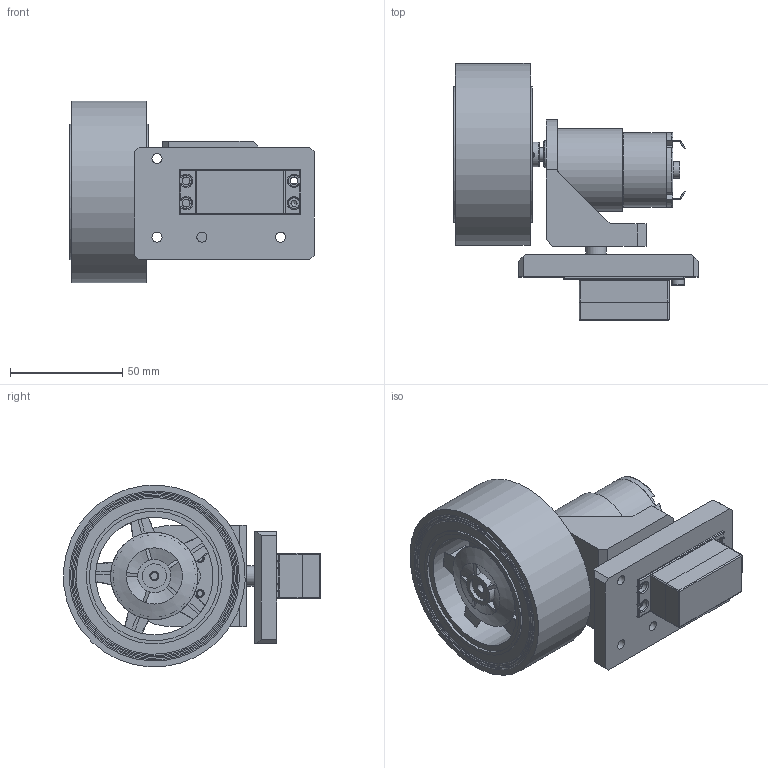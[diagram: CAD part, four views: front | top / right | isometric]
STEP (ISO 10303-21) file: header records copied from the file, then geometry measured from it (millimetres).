
FILE_DESCRIPTION(/* description */ (''),/* implementation_level */ '2;1');
FILE_NAME(/* name */ 'Assieme_ruota_80.stp',/* time_stamp */ '2025-06-14T11:58:53+02:00',/* author */ ('R5800u'),/* organization */ (''),/* preprocessor_version */ 'ST-DEVELOPER v20',/* originating_system */ 'Autodesk Inventor 2025',/* authorisation */ '');
FILE_SCHEMA (('AUTOMOTIVE_DESIGN { 1 0 10303 214 3 1 1 }'));
Length unit declared in the file: millimetre
Products named in the file (11): Assieme_ruota_80; blocco_servo_01; hex_30mm; MM-JGB37 v4_MIR1; JGB37-520_MIR1; TD-9512MG; Assieme_ruota_80mm; RC Wheel 80mm STEP; RC Tire 80mm; Servo Horn MG995 MG996n; AS 1420 - 1973 - M3 x 10
Assembly tree (10 placements, depth 3):
  Assieme_ruota_80
    blocco_servo_01
    hex_30mm
    MM-JGB37 v4_MIR1
    JGB37-520_MIR1
    TD-9512MG
    Assieme_ruota_80mm
      RC Wheel 80mm STEP
      RC Tire 80mm
    Servo Horn MG995 MG996n
    AS 1420 - 1973 - M3 x 10
Bounding box: 108.85 x 114.43 x 80.87 mm (x, y, z)
Volume: 140334.1 mm3; surface area: 107394.2 mm2
Topology: 21 solids, 21 shells, 906 faces, 2182 edges, 1362 vertices
Faces by surface type: plane 440, cylinder 305, sphere 56, cone 47, torus 35, bspline 23
Full cylindrical faces by diameter (mm): 1.6 x3, 2 x4, 2.25 x2, 2.459 x1, 2.5 x6, 2.55 x4, 2.6 x3, 3 x1, 3.3 x10, 3.4 x9, 3.5 x6, 3.733 x9, 4 x4, 4.2 x3, 4.5 x4, 4.901 x1, 5.5 x6, 6 x5, 7.5 x1, 8 x4, 9 x1, 10 x1, 10.8 x1, 10.95 x1, 12 x1, 12.5 x1, 17.3 x1, 20 x1, 20.2 x1, 32 x2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
Entity records: 28855 total; most frequent: CARTESIAN_POINT 6695, DIRECTION 4579, ORIENTED_EDGE 4340, EDGE_CURVE 2170, AXIS2_PLACEMENT_3D 1676, VERTEX_POINT 1361, LINE 1227, VECTOR 1227
